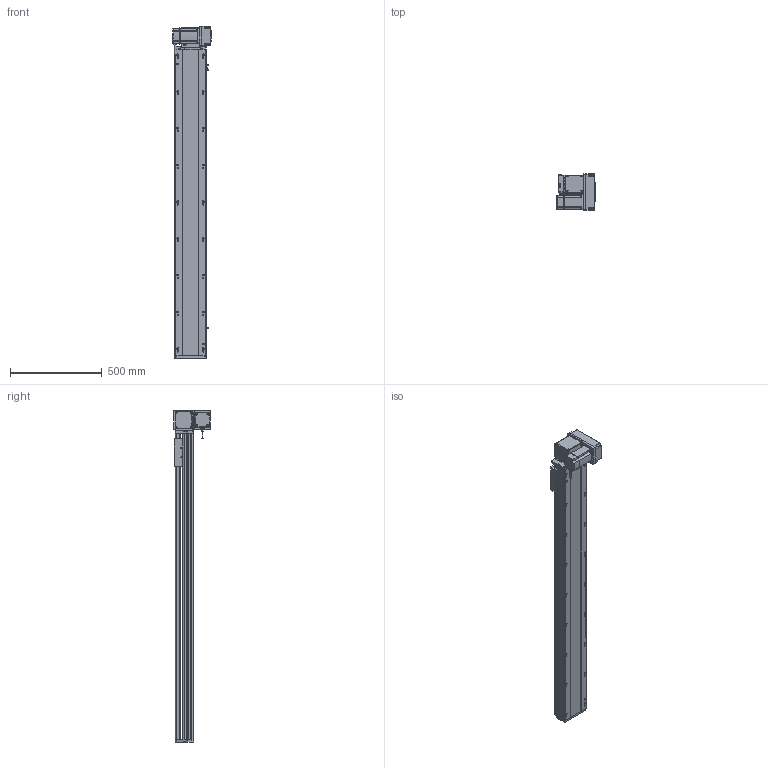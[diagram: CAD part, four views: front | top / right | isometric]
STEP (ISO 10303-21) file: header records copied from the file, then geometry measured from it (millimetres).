
FILE_DESCRIPTION (( 'STEP AP214' ), '1' );
FILE_NAME ('RTB17S-XX-1400-RM-M75-C4.STEP', '2025-12-12T02:08:24', ( '' ), ( '' ), 'SwSTEP 2.0', 'SolidWorks 2018', '' );
FILE_SCHEMA (( 'AUTOMOTIVE_DESIGN' ));
Length unit declared in the file: millimetre
Products named in the file (15): 750W萇儂^RTB17S-XX-XX-RM-M75-C4; RTB22S-GY-018P^RTB17S-RM-々湍釱蚾饜-750W_RTB17S-XX-XX-RM-M75-C4; RTB22S-GY-008-M75--萇儂啣^RTB17S-RM-々湍釱蚾饜-750W_RTB17S-XX-XX-RM-M75-C4; RTB17S-賑釱^RTB17S-XX-XX-RM-M75-C4; RTB17S-L-001-耜醱啣^RTB17S-XX-XX-RM-M75-C4; RTB17S-XX-1400-RM-M75-C4; RTB17S-L-004-賑釱^RTB17S-賑釱_RTB17S-XX-XX-RM-M75-C4; RTB22S-GY-005P^RTB17S-RM-々湍釱蚾饜-750W_RTB17S-XX-XX-RM-M75-C4; EE672^RTB17S-XX-XX-RM-M75-C4; RTB22S-GY-017P^RTB17S-RM-々湍釱蚾饜-750W_RTB17S-XX-XX-RM-M75-C4; RTB17-R-011菁釱^RTB17S-XX-XX-RM-M75-C4; RTB17S-RM-々湍釱蚾饜-750W^RTB17S-XX-XX-RM-M75-C4; RTB17S-L-014-T20-P75--々湍釱^RTB17S-RM-々湍釱蚾饜-750W_RTB17S-XX-XX-RM-M75-C4; RTB17S-L-007奻裔^RTB17S-XX-XX-RM-M75-C4; RTH13-BL-012覜茼え俋离^RTB17S-賑釱_RTB17S-XX-XX-RM-M75-C4
Assembly tree (17 placements, depth 3):
  RTB17S-XX-1400-RM-M75-C4
    RTB17-R-011菁釱^RTB17S-XX-XX-RM-M75-C4
    EE672^RTB17S-XX-XX-RM-M75-C4  x3
    RTB17S-L-001-耜醱啣^RTB17S-XX-XX-RM-M75-C4
    RTB17S-賑釱^RTB17S-XX-XX-RM-M75-C4
      RTB17S-L-004-賑釱^RTB17S-賑釱_RTB17S-XX-XX-RM-M75-C4
      RTH13-BL-012覜茼え俋离^RTB17S-賑釱_RTB17S-XX-XX-RM-M75-C4
    RTB17S-L-007奻裔^RTB17S-XX-XX-RM-M75-C4
    750W萇儂^RTB17S-XX-XX-RM-M75-C4
    RTB17S-RM-々湍釱蚾饜-750W^RTB17S-XX-XX-RM-M75-C4
      RTB17S-L-014-T20-P75--々湍釱^RTB17S-RM-々湍釱蚾饜-750W_RTB17S-XX-XX-RM-M75-C4
      RTB22S-GY-005P^RTB17S-RM-々湍釱蚾饜-750W_RTB17S-XX-XX-RM-M75-C4
      RTB22S-GY-017P^RTB17S-RM-々湍釱蚾饜-750W_RTB17S-XX-XX-RM-M75-C4  x2
      RTB22S-GY-008-M75--萇儂啣^RTB17S-RM-々湍釱蚾饜-750W_RTB17S-XX-XX-RM-M75-C4
      RTB22S-GY-018P^RTB17S-RM-々湍釱蚾饜-750W_RTB17S-XX-XX-RM-M75-C4
Bounding box: 207.4 x 200 x 1807.5 mm (x, y, z)
Volume: 14704223.7 mm3; surface area: 2561351.4 mm2
Topology: 17 solids, 17 shells, 2121 faces, 5890 edges, 3806 vertices
Faces by surface type: plane 974, cylinder 731, bspline 294, cone 110, sphere 8, torus 4
Entity records: 59638 total; most frequent: CARTESIAN_POINT 17554, ORIENTED_EDGE 8624, DIRECTION 8042, EDGE_CURVE 4312, AXIS2_PLACEMENT_3D 2826, VERTEX_POINT 2810, VECTOR 2390, LINE 2390
